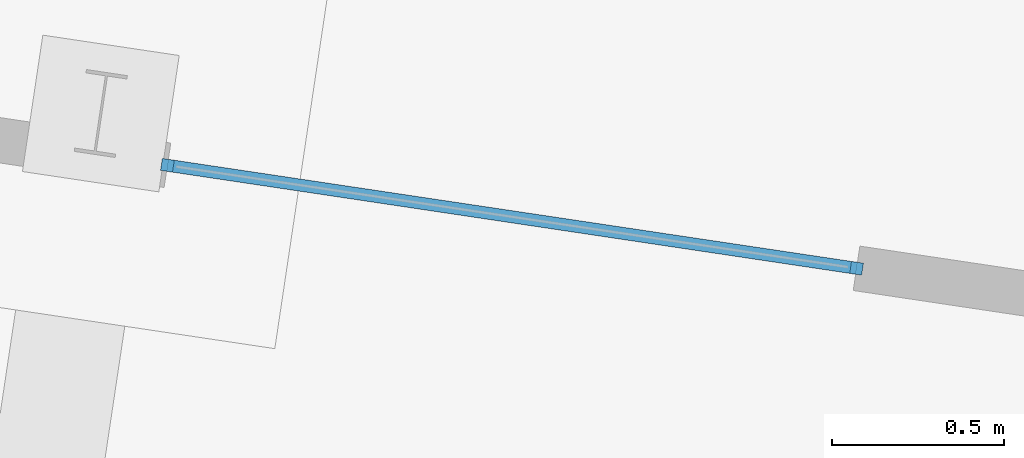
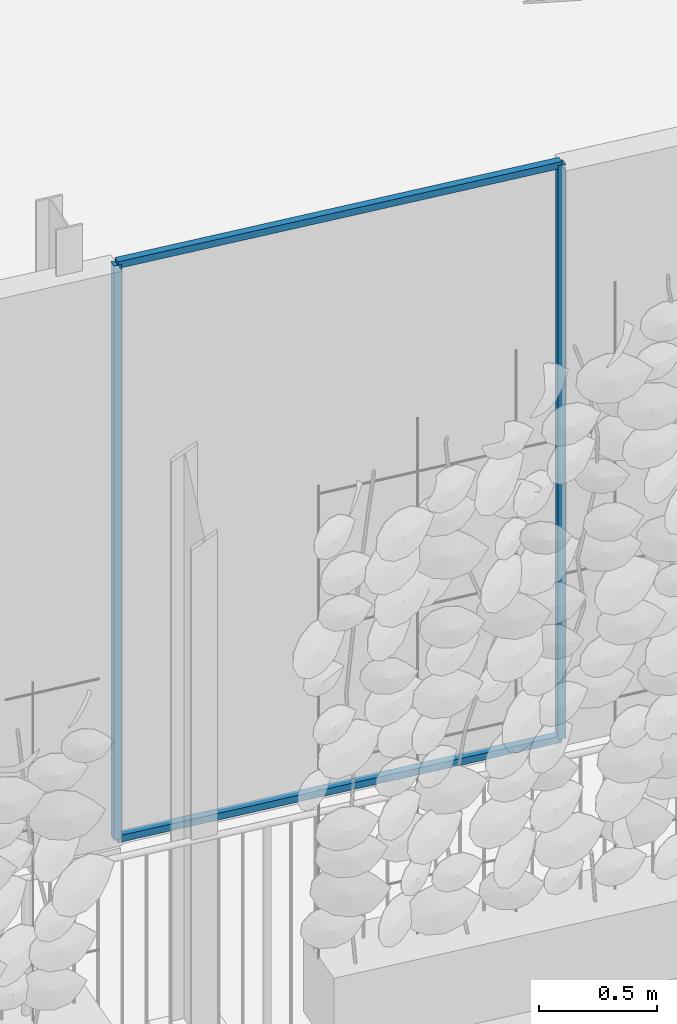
# One storey, part 93 of 142: 4 members.
"""IFC4 building model written with IfcOpenShell, lengths in metres."""

from ifc_helpers import new_model, si_unit, direction, frame, origin_with_axes, place, context, subcontext, project, spatial, rectangle, extrude, material, material_profile, profile_set, profile_usage, type_object, element, save


model = new_model("IFC4")

# Units and contexts
model_context = context("Model", 3, precision=1e-05, world=origin_with_axes(), true_north=direction((0.0, 1.0)))
body_context = subcontext(model_context, "Body", "Model", "MODEL_VIEW")
ifc_project = project(units=[si_unit("AREAUNIT", "SQUARE_METRE"), si_unit("VOLUMEUNIT", "CUBIC_METRE"), si_unit("LENGTHUNIT", "METRE")], contexts=[model_context])

# Site, building, storey
site_placement = place(None, origin_with_axes())
site = spatial("IfcSite", under=ifc_project, at=site_placement, Name="Lares · Rua das Mercês · artigo 4771")
building_placement = place(site_placement, frame((15.0, 9.7, 14.65), z_axis=(0.0, 0.0, 1.0), x_axis=(0.989015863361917, -0.147809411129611, 0.0)))
building = spatial("IfcBuilding", under=site, at=building_placement, Name="Casa Sobreposta")
storey_placement = place(building_placement, origin_with_axes())
storey = spatial("IfcBuildingStorey", under=building, at=storey_placement, Name="00 · Habitação e estacionamento", Elevation=14.65)

# Members
ifc_material = material(Name="Aço pintado / Stahl lackiert", Category="steel")
ifc_material_profile = material_profile(ifc_material, rectangle(XDim=0.035, YDim=0.035))
ifc_profile_set = profile_set([ifc_material_profile], Name="R0.035")
ifc_profile_usage_1 = profile_usage(ifc_profile_set)
member_type = type_object("IfcMemberType", Name="R0.035 / steel", PredefinedType="NOTDEFINED", material=ifc_profile_set)
member_1_placement = place(storey_placement, frame((20.2133333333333, 0.0, 0.0), z_axis=(0.0, 0.0, 1.0), x_axis=(1.0, 0.0, 0.0)))
element("IfcMember", 1, at=member_1_placement, inside=storey, type_object=member_type, material=ifc_profile_usage_1, Name="Folha de correr sul 10 · montante", context=body_context, shape_type="SweptSolid", body=[
    extrude(rectangle(XDim=0.035, YDim=0.035), origin_with_axes(), (0.0, 0.0, 1.0), 2.968),
])
ifc_profile_usage_2 = profile_usage(ifc_profile_set)
member_2_placement = place(storey_placement, frame((22.2346666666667, 0.0, 0.0), z_axis=(0.0, 0.0, 1.0), x_axis=(1.0, 0.0, 0.0)))
element("IfcMember", 2, at=member_2_placement, inside=storey, type_object=member_type, material=ifc_profile_usage_2, Name="Folha de correr sul 10 · montante", context=body_context, shape_type="SweptSolid", body=[
    extrude(rectangle(XDim=0.035, YDim=0.035), origin_with_axes(), (0.0, 0.0, 1.0), 2.968),
])
ifc_profile_usage_3 = profile_usage(ifc_profile_set)
member_3_placement = place(storey_placement, frame((20.2133333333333, 0.0, 0.0), z_axis=(1.0, 0.0, 0.0), x_axis=(0.0, -1.0, 0.0)))
element("IfcMember", 3, at=member_3_placement, inside=storey, type_object=member_type, material=ifc_profile_usage_3, Name="Folha de correr sul 10 · travessa", context=body_context, shape_type="SweptSolid", body=[
    extrude(rectangle(XDim=0.035, YDim=0.035), origin_with_axes(), (0.0, 0.0, 1.0), 2.02133333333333),
])
ifc_profile_usage_4 = profile_usage(ifc_profile_set)
member_4_placement = place(storey_placement, frame((20.2133333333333, 0.0, 2.968), z_axis=(1.0, 0.0, 0.0), x_axis=(0.0, -1.0, 0.0)))
element("IfcMember", 4, at=member_4_placement, inside=storey, type_object=member_type, material=ifc_profile_usage_4, Name="Folha de correr sul 10 · travessa", context=body_context, shape_type="SweptSolid", body=[
    extrude(rectangle(XDim=0.035, YDim=0.035), origin_with_axes(), (0.0, 0.0, 1.0), 2.02133333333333),
])

save(model, "model.ifc")
